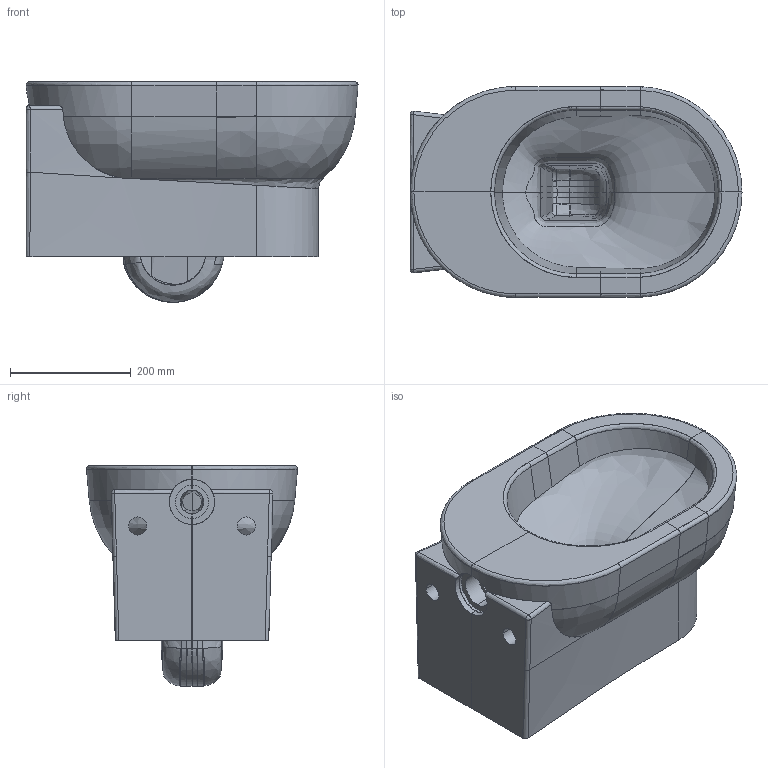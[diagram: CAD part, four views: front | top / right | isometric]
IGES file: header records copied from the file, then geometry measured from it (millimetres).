
Start section: START RECORD GO HERE.
Global section: file name: 5245_VASO SOSP M2 55.igs; native system: DASSAULT SYSTEMES CATIA V5 R19 - www.3ds.com; preprocessor: CATIA Version 5 Release 19 SP 5 ; author: gioge; organization: LAPTOP-G94B6G74; date: 20200630.120630; units: millimetre
Bounding box: 549.43 x 349.14 x 365.33 mm (x, y, z)
Surface area: 941560.6 mm2 (no closed solid volume)
Topology: 0 solids, 0 shells, 284 faces, 2267 edges, 2258 vertices
Faces by surface type: bspline 242, plane 34, revolution 8
